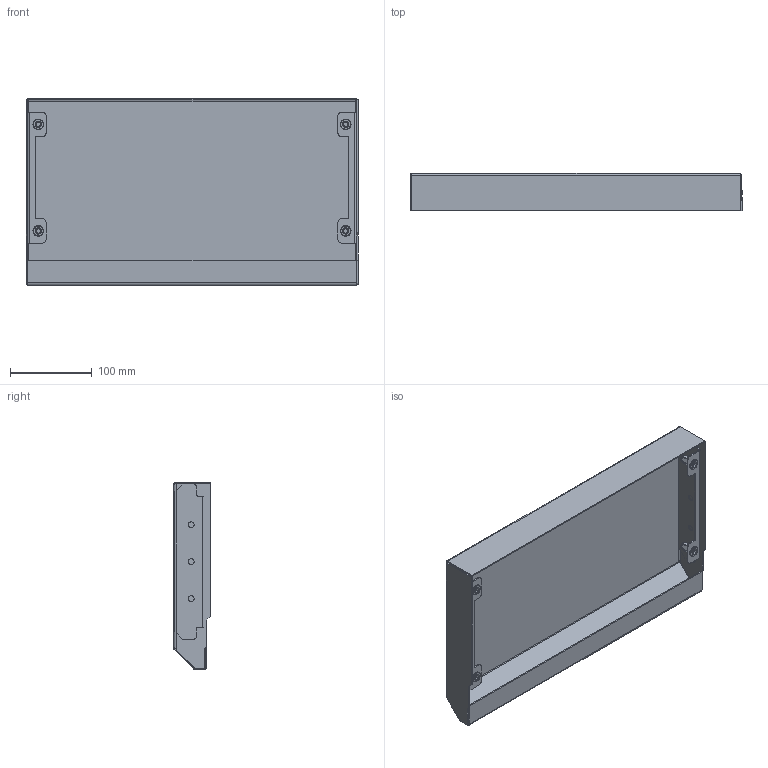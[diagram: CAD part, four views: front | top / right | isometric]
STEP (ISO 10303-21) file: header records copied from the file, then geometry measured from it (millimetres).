
FILE_DESCRIPTION (( 'STEP AP214' ), '1' );
FILE_NAME ('RKC 40.21 S ﾊ鰀靍裲 鈞隆.STEP', '2023-07-29T11:54:07', ( '' ), ( '' ), 'SwSTEP 2.0', 'SolidWorks 2019', '' );
FILE_SCHEMA (( 'AUTOMOTIVE_DESIGN' ));
Length unit declared in the file: millimetre
Products named in the file (4): Çàêëåïêà Ì6 ãàå÷íàÿ Rivkle 2335 106 0030_1,4; RKC Y.Z 01.001 S 扻踑謥獥RKC 40.21 S; RKC 40.21 S ﾊ鰀靍裲 鈞隆; RKC Z 01.002 S 扰鍙欙樥燲RKC 21
Assembly tree (7 placements, depth 2):
  RKC 40.21 S ﾊ鰀靍裲 鈞隆
    RKC Y.Z 01.001 S 扻踑謥獥RKC 40.21 S
    RKC Z 01.002 S 扰鍙欙樥燲RKC 21  x2
    Çàêëåïêà Ì6 ãàå÷íàÿ Rivkle 2335 106 0030_1,4  x4
Bounding box: 405 x 45 x 228 mm (x, y, z)
Volume: 251006.2 mm3; surface area: 338315.1 mm2
Topology: 7 solids, 7 shells, 686 faces, 1664 edges, 1008 vertices
Faces by surface type: cylinder 218, plane 202, bspline 162, torus 64, sphere 24, cone 16
Entity records: 10762 total; most frequent: CARTESIAN_POINT 3738, ORIENTED_EDGE 1496, DIRECTION 1368, EDGE_CURVE 748, AXIS2_PLACEMENT_3D 510, VERTEX_POINT 460, LINE 348, VECTOR 348
